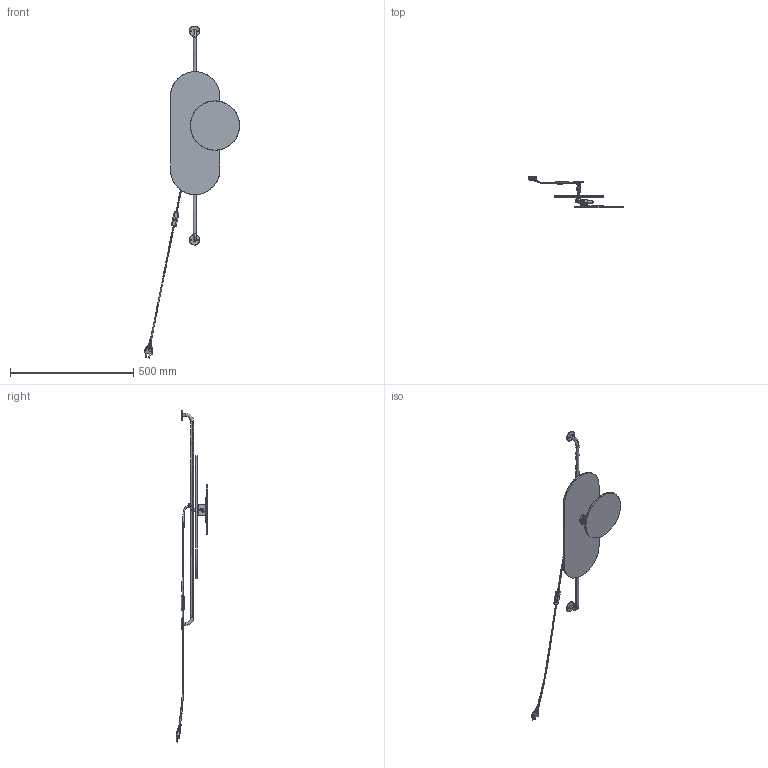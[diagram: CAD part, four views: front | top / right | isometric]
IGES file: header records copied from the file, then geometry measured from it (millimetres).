
Start section: SolidWorks IGES file using analytic representation for surfaces
Global section: file name: F:\GABRYSIA\MODELE 3D\WHEEL KINKIET 2\Z³o¿enie WHEEL KINKIET 2.IGS; native system: SolidWorks 2017; preprocessor: SolidWorks 2017; author: Togambi; date: 191214.134259; units: millimetre
Bounding box: 387 x 129.71 x 1349.38 mm (x, y, z)
Surface area: 383922.2 mm2 (no closed solid volume)
Topology: 0 solids, 0 shells, 805 faces, 9611 edges, 9593 vertices
Faces by surface type: bspline 482, revolution 323
